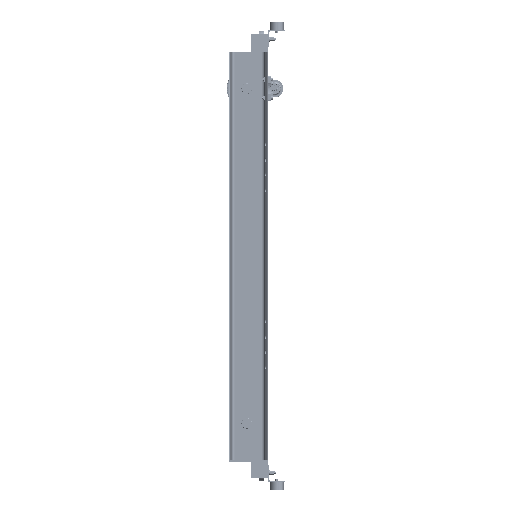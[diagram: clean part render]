
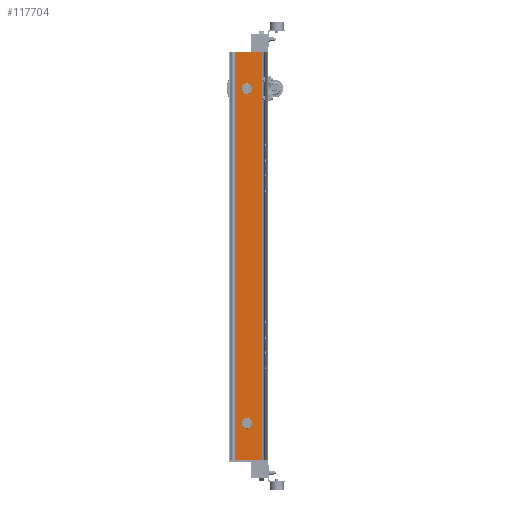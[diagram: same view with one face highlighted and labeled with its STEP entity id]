
A CAD part, left-side view. The second image highlights one B-rep face of the part: STEP entity #117704.
In plain terms, the highlighted planar face has unit normal (-1, 0, 0) as drawn and (1, 0, 0) by its records, which use the part's own axes.
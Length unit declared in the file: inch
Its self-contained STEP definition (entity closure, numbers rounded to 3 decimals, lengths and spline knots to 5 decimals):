
#2856 = CARTESIAN_POINT ( 'NONE',  ( 0.375, 6.76976, 41.5 ) ) ;
#3404 = EDGE_CURVE ( 'NONE', #81004, #163453, #172955, .T. ) ;
#8047 = CARTESIAN_POINT ( 'NONE',  ( 0.375, 3.37, -34. ) ) ;
#8546 = DIRECTION ( 'NONE',  ( 0., 1., 0. ) ) ;
#13883 = AXIS2_PLACEMENT_3D ( 'NONE', #75096, #187703, #74137 ) ;
#14457 = DIRECTION ( 'NONE',  ( 0., -1., 0. ) ) ;
#17137 = FACE_BOUND ( 'NONE', #67533, .T. ) ;
#22985 = CARTESIAN_POINT ( 'NONE',  ( 0.375, 3.37, 34. ) ) ;
#24231 = LINE ( 'NONE', #173020, #125910 ) ;
#26325 = EDGE_CURVE ( 'NONE', #107310, #168142, #176616, .T. ) ;
#27308 = CIRCLE ( 'NONE', #127854, 0.986 ) ;
#29724 = CARTESIAN_POINT ( 'NONE',  ( 0.375, 6.76976, 41.5 ) ) ;
#31036 = DIRECTION ( 'NONE',  ( 1., 0., 0. ) ) ;
#34256 = DIRECTION ( 'NONE',  ( 0., 1., 0. ) ) ;
#36866 = CARTESIAN_POINT ( 'NONE',  ( 0.375, 1.23024, -41.5 ) ) ;
#37224 = EDGE_CURVE ( 'NONE', #149176, #168142, #24231, .T. ) ;
#39201 = ORIENTED_EDGE ( 'NONE', *, *, #37224, .F. ) ;
#42304 = DIRECTION ( 'NONE',  ( 0., -1., 0. ) ) ;
#43453 = ORIENTED_EDGE ( 'NONE', *, *, #167953, .T. ) ;
#44632 = CARTESIAN_POINT ( 'NONE',  ( 0.375, 6.76976, -41.5 ) ) ;
#49597 = CARTESIAN_POINT ( 'NONE',  ( 0.375, 4.356, 34. ) ) ;
#49918 = ORIENTED_EDGE ( 'NONE', *, *, #139846, .F. ) ;
#50246 = ORIENTED_EDGE ( 'NONE', *, *, #59564, .F. ) ;
#51654 = VERTEX_POINT ( 'NONE', #91001 ) ;
#59564 = EDGE_CURVE ( 'NONE', #163453, #81004, #80940, .T. ) ;
#61559 = ORIENTED_EDGE ( 'NONE', *, *, #112703, .F. ) ;
#62040 = ORIENTED_EDGE ( 'NONE', *, *, #26325, .T. ) ;
#65666 = CARTESIAN_POINT ( 'NONE',  ( 0.375, 5.342, -34. ) ) ;
#65714 = CIRCLE ( 'NONE', #138811, 0.986 ) ;
#67514 = EDGE_CURVE ( 'NONE', #146970, #149176, #125085, .T. ) ;
#67533 = EDGE_LOOP ( 'NONE', ( #129825, #50246 ) ) ;
#70773 = VECTOR ( 'NONE', #14457, 39.37008 ) ;
#71719 = LINE ( 'NONE', #29724, #70773 ) ;
#72304 = AXIS2_PLACEMENT_3D ( 'NONE', #188514, #31036, #159848 ) ;
#74137 = DIRECTION ( 'NONE',  ( 0., 1., 0. ) ) ;
#75096 = CARTESIAN_POINT ( 'NONE',  ( 0.375, 4.356, -34. ) ) ;
#75360 = PLANE ( 'NONE',  #139869 ) ;
#78748 = ORIENTED_EDGE ( 'NONE', *, *, #67514, .F. ) ;
#80940 = CIRCLE ( 'NONE', #13883, 0.986 ) ;
#81004 = VERTEX_POINT ( 'NONE', #65666 ) ;
#82662 = VECTOR ( 'NONE', #139378, 39.37008 ) ;
#91001 = CARTESIAN_POINT ( 'NONE',  ( 0.375, 5.342, 34. ) ) ;
#93598 = VECTOR ( 'NONE', #187143, 39.37008 ) ;
#106768 = CARTESIAN_POINT ( 'NONE',  ( 0.375, 4.356, 34. ) ) ;
#107310 = VERTEX_POINT ( 'NONE', #184544 ) ;
#107814 = DIRECTION ( 'NONE',  ( 1., 0., 0. ) ) ;
#112703 = EDGE_CURVE ( 'NONE', #51654, #126700, #65714, .T. ) ;
#115452 = DIRECTION ( 'NONE',  ( 1., 0., 0. ) ) ;
#117357 = FACE_BOUND ( 'NONE', #181410, .T. ) ;
#117704 = ADVANCED_FACE ( 'NONE', ( #17137, #117357, #133556 ), #75360, .T. ) ;
#125085 = LINE ( 'NONE', #180481, #82662 ) ;
#125910 = VECTOR ( 'NONE', #42304, 39.37008 ) ;
#126700 = VERTEX_POINT ( 'NONE', #22985 ) ;
#127854 = AXIS2_PLACEMENT_3D ( 'NONE', #106768, #164987, #34256 ) ;
#129825 = ORIENTED_EDGE ( 'NONE', *, *, #3404, .F. ) ;
#133556 = FACE_OUTER_BOUND ( 'NONE', #157165, .T. ) ;
#138811 = AXIS2_PLACEMENT_3D ( 'NONE', #49597, #107814, #8546 ) ;
#139378 = DIRECTION ( 'NONE',  ( 0., 0., -1. ) ) ;
#139846 = EDGE_CURVE ( 'NONE', #126700, #51654, #27308, .T. ) ;
#139869 = AXIS2_PLACEMENT_3D ( 'NONE', #2856, #115452, #161225 ) ;
#144177 = CARTESIAN_POINT ( 'NONE',  ( 0.375, 1.23024, 41.5 ) ) ;
#146970 = VERTEX_POINT ( 'NONE', #164263 ) ;
#149176 = VERTEX_POINT ( 'NONE', #44632 ) ;
#157165 = EDGE_LOOP ( 'NONE', ( #39201, #78748, #43453, #62040 ) ) ;
#159848 = DIRECTION ( 'NONE',  ( 0., 1., 0. ) ) ;
#161225 = DIRECTION ( 'NONE',  ( 0., 0., -1. ) ) ;
#163453 = VERTEX_POINT ( 'NONE', #8047 ) ;
#164263 = CARTESIAN_POINT ( 'NONE',  ( 0.375, 6.76976, 41.5 ) ) ;
#164987 = DIRECTION ( 'NONE',  ( 1., 0., 0. ) ) ;
#167953 = EDGE_CURVE ( 'NONE', #146970, #107310, #71719, .T. ) ;
#168142 = VERTEX_POINT ( 'NONE', #36866 ) ;
#172955 = CIRCLE ( 'NONE', #72304, 0.986 ) ;
#173020 = CARTESIAN_POINT ( 'NONE',  ( 0.375, 6.76976, -41.5 ) ) ;
#176616 = LINE ( 'NONE', #144177, #93598 ) ;
#180481 = CARTESIAN_POINT ( 'NONE',  ( 0.375, 6.76976, 41.5 ) ) ;
#181410 = EDGE_LOOP ( 'NONE', ( #61559, #49918 ) ) ;
#184544 = CARTESIAN_POINT ( 'NONE',  ( 0.375, 1.23024, 41.5 ) ) ;
#187143 = DIRECTION ( 'NONE',  ( 0., 0., -1. ) ) ;
#187703 = DIRECTION ( 'NONE',  ( 1., 0., 0. ) ) ;
#188514 = CARTESIAN_POINT ( 'NONE',  ( 0.375, 4.356, -34. ) ) ;
